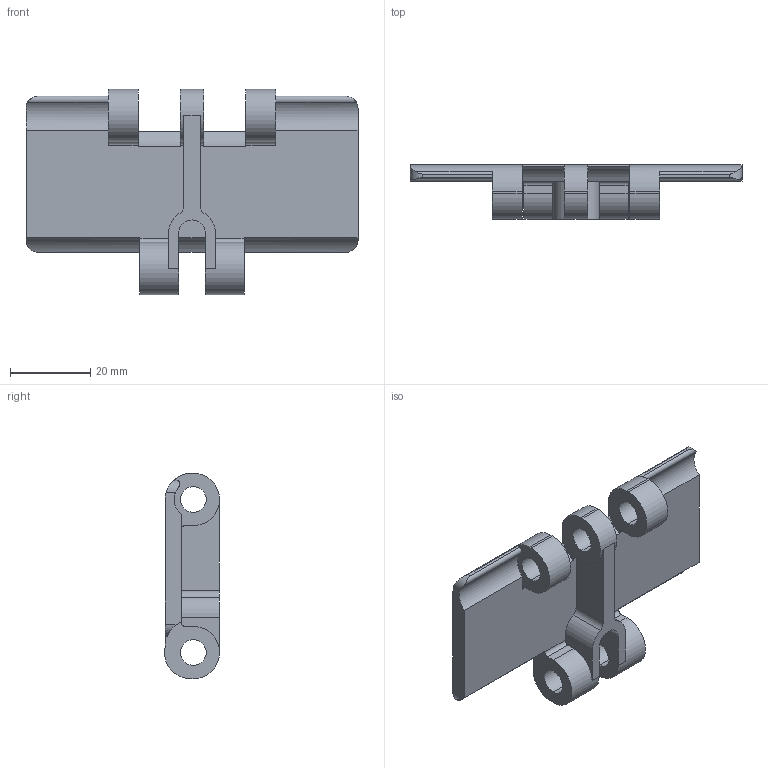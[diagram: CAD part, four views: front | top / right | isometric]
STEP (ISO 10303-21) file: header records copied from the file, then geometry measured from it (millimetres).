
FILE_DESCRIPTION (( 'STEP AP214' ), '1' );
FILE_NAME ('820_K325.STEP', '2011-04-14T11:49:07', ( '.' ), ( '' ), 'SwSTEP 2.0', 'SolidWorks 2010', '' );
FILE_SCHEMA (( 'AUTOMOTIVE_DESIGN' ));
Length unit declared in the file: millimetre
Products named in the file (1): 820_K325
Bounding box: 82.6 x 13.68 x 51.1 mm (x, y, z)
Volume: 15585.2 mm3; surface area: 10124.4 mm2
Topology: 1 solids, 1 shells, 85 faces, 249 edges, 166 vertices
Faces by surface type: cylinder 51, plane 34
Entity records: 3009 total; most frequent: CARTESIAN_POINT 621, DIRECTION 505, ORIENTED_EDGE 498, EDGE_CURVE 249, AXIS2_PLACEMENT_3D 182, VERTEX_POINT 166, VECTOR 141, LINE 141
